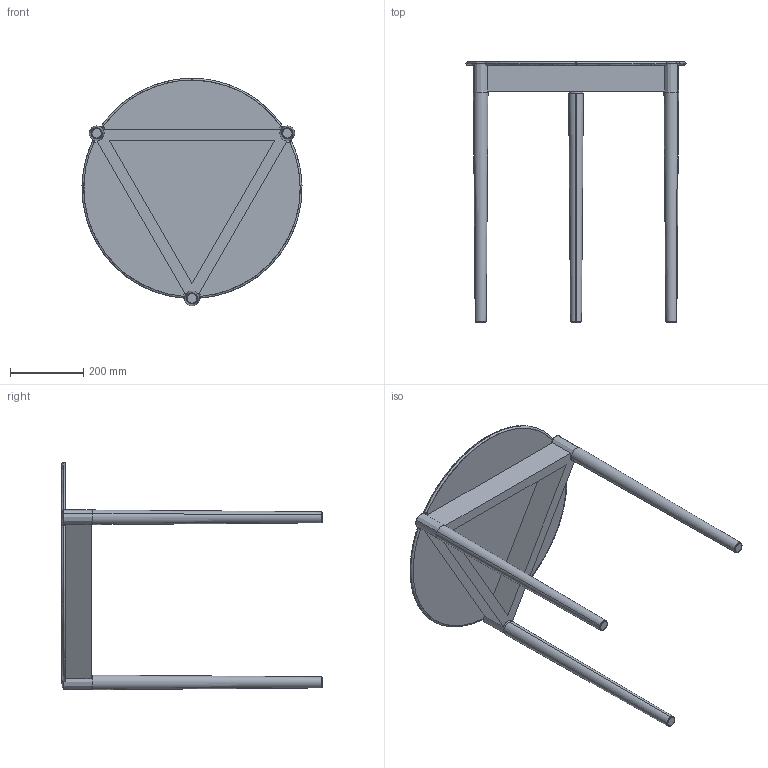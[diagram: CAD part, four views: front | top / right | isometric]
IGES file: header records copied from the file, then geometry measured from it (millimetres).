
Start section: SolidWorks IGES file using analytic representation for surfaces
Global section: file name: C:\Users\Kumagai\Desktop\sidekicks 3ds\456L coffee table_version f_2014-06-03\456 Sidekicks Occasional Table.IGS; native system: SolidWorks 2016; preprocessor: SolidWorks 2016; author: Kumagai; date: 180417.153337; units: millimetre
Bounding box: 599.78 x 710 x 620 mm (x, y, z)
Surface area: 1105963.3 mm2 (no closed solid volume)
Topology: 0 solids, 0 shells, 74 faces, 1044 edges, 1039 vertices
Faces by surface type: bspline 53, revolution 21
